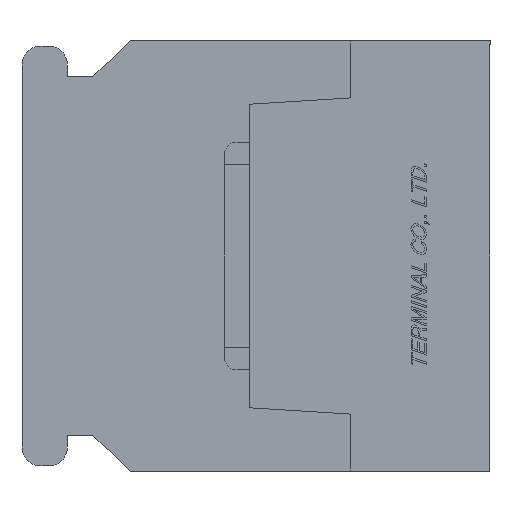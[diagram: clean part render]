
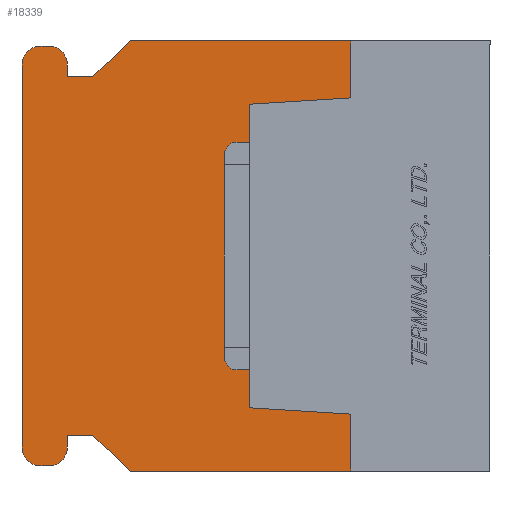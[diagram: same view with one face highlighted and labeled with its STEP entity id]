
A CAD part, left-side view. The second image highlights one B-rep face of the part: STEP entity #18339.
In plain terms, the highlighted planar face has unit normal (-1, 0, 0).
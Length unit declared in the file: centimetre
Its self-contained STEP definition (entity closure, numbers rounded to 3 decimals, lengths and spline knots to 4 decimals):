
#1378=VECTOR('',#20758,1.);
#1444=VECTOR('',#20850,1.);
#1771=VECTOR('',#21469,1.);
#1772=VECTOR('',#21470,1.);
#1773=VECTOR('',#21471,1.);
#1774=VECTOR('',#21472,1.);
#1775=VECTOR('',#21475,1.);
#1776=VECTOR('',#21478,1.);
#1777=VECTOR('',#21481,1.);
#1778=VECTOR('',#21484,1.);
#1779=VECTOR('',#21485,1.);
#1780=VECTOR('',#21486,1.);
#1781=VECTOR('',#21487,1.);
#1782=VECTOR('',#21488,1.);
#1783=VECTOR('',#21489,1.);
#1784=VECTOR('',#21490,1.);
#3328=LINE('',#25317,#1378);
#3394=LINE('',#25456,#1444);
#3721=LINE('',#26225,#1771);
#3722=LINE('',#26227,#1772);
#3723=LINE('',#26229,#1773);
#3724=LINE('',#26231,#1774);
#3725=LINE('',#26235,#1775);
#3726=LINE('',#26239,#1776);
#3727=LINE('',#26243,#1777);
#3728=LINE('',#26247,#1778);
#3729=LINE('',#26249,#1779);
#3730=LINE('',#26251,#1780);
#3731=LINE('',#26252,#1781);
#3732=LINE('',#26254,#1782);
#3733=LINE('',#26256,#1783);
#3734=LINE('',#26258,#1784);
#5031=PLANE('',#30453);
#6106=VERTEX_POINT('',#25316);
#6107=VERTEX_POINT('',#25318);
#6161=VERTEX_POINT('',#25455);
#6162=VERTEX_POINT('',#25457);
#6398=VERTEX_POINT('',#26226);
#6399=VERTEX_POINT('',#26228);
#6400=VERTEX_POINT('',#26230);
#6401=VERTEX_POINT('',#26232);
#6402=VERTEX_POINT('',#26234);
#6403=VERTEX_POINT('',#26236);
#6404=VERTEX_POINT('',#26238);
#6405=VERTEX_POINT('',#26240);
#6406=VERTEX_POINT('',#26242);
#6407=VERTEX_POINT('',#26244);
#6408=VERTEX_POINT('',#26246);
#6409=VERTEX_POINT('',#26248);
#6410=VERTEX_POINT('',#26250);
#6411=VERTEX_POINT('',#26253);
#6412=VERTEX_POINT('',#26255);
#6413=VERTEX_POINT('',#26257);
#7479=CIRCLE('',#30454,0.075);
#7480=CIRCLE('',#30455,0.075);
#7481=CIRCLE('',#30456,0.075);
#7482=CIRCLE('',#30457,0.075);
#8607=EDGE_CURVE('',#6106,#6107,#3328,.T.);
#8677=EDGE_CURVE('',#6161,#6162,#3394,.T.);
#9062=EDGE_CURVE('',#6398,#6162,#3721,.T.);
#9063=EDGE_CURVE('',#6399,#6161,#3722,.T.);
#9064=EDGE_CURVE('',#6400,#6399,#3723,.T.);
#9065=EDGE_CURVE('',#6401,#6400,#3724,.T.);
#9066=EDGE_CURVE('',#6402,#6401,#7479,.T.);
#9067=EDGE_CURVE('',#6403,#6402,#3725,.T.);
#9068=EDGE_CURVE('',#6404,#6403,#7480,.T.);
#9069=EDGE_CURVE('',#6405,#6404,#3726,.T.);
#9070=EDGE_CURVE('',#6406,#6405,#7481,.T.);
#9071=EDGE_CURVE('',#6407,#6406,#3727,.T.);
#9072=EDGE_CURVE('',#6408,#6407,#7482,.T.);
#9073=EDGE_CURVE('',#6409,#6408,#3728,.T.);
#9074=EDGE_CURVE('',#6410,#6409,#3729,.T.);
#9075=EDGE_CURVE('',#6107,#6410,#3730,.T.);
#9076=EDGE_CURVE('',#6106,#6411,#3731,.T.);
#9077=EDGE_CURVE('',#6411,#6412,#3732,.T.);
#9078=EDGE_CURVE('',#6412,#6413,#3733,.T.);
#9079=EDGE_CURVE('',#6413,#6398,#3734,.T.);
#13232=ORIENTED_EDGE('',*,*,#9062,.T.);
#13233=ORIENTED_EDGE('',*,*,#8677,.F.);
#13234=ORIENTED_EDGE('',*,*,#9063,.F.);
#13235=ORIENTED_EDGE('',*,*,#9064,.F.);
#13236=ORIENTED_EDGE('',*,*,#9065,.F.);
#13237=ORIENTED_EDGE('',*,*,#9066,.F.);
#13238=ORIENTED_EDGE('',*,*,#9067,.F.);
#13239=ORIENTED_EDGE('',*,*,#9068,.F.);
#13240=ORIENTED_EDGE('',*,*,#9069,.F.);
#13241=ORIENTED_EDGE('',*,*,#9070,.F.);
#13242=ORIENTED_EDGE('',*,*,#9071,.F.);
#13243=ORIENTED_EDGE('',*,*,#9072,.F.);
#13244=ORIENTED_EDGE('',*,*,#9073,.F.);
#13245=ORIENTED_EDGE('',*,*,#9074,.F.);
#13246=ORIENTED_EDGE('',*,*,#9075,.F.);
#13247=ORIENTED_EDGE('',*,*,#8607,.F.);
#13248=ORIENTED_EDGE('',*,*,#9076,.T.);
#13249=ORIENTED_EDGE('',*,*,#9077,.T.);
#13250=ORIENTED_EDGE('',*,*,#9078,.T.);
#13251=ORIENTED_EDGE('',*,*,#9079,.T.);
#16189=EDGE_LOOP('',(#13232,#13233,#13234,#13235,#13236,#13237,#13238,#13239,
#13240,#13241,#13242,#13243,#13244,#13245,#13246,#13247,#13248,#13249,#13250,
#13251));
#17303=FACE_BOUND('',#16189,.T.);
#18339=ADVANCED_FACE('',(#17303),#5031,.F.);
#20758=DIRECTION('',(0.,1.,0.));
#20850=DIRECTION('',(0.,-1.,0.));
#21468=DIRECTION('',(1.,0.,0.));
#21469=DIRECTION('',(0.,0.,1.));
#21470=DIRECTION('',(0.,-0.731,0.682));
#21471=DIRECTION('',(0.,-1.,0.));
#21472=DIRECTION('',(0.,0.,-1.));
#21473=DIRECTION('',(1.,0.,0.));
#21474=DIRECTION('',(0.,0.,-0.075));
#21475=DIRECTION('',(0.,-1.,0.));
#21476=DIRECTION('',(1.,0.,0.));
#21477=DIRECTION('',(0.,0.,-0.075));
#21478=DIRECTION('',(0.,0.,1.));
#21479=DIRECTION('',(1.,0.,0.));
#21480=DIRECTION('',(0.,0.,-0.075));
#21481=DIRECTION('',(0.,1.,0.));
#21482=DIRECTION('',(1.,0.,0.));
#21483=DIRECTION('',(0.,0.,-0.075));
#21484=DIRECTION('',(0.,0.,-1.));
#21485=DIRECTION('',(0.,1.,0.));
#21486=DIRECTION('',(0.,0.731,0.682));
#21487=DIRECTION('',(0.,0.,1.));
#21488=DIRECTION('',(0.,0.998,0.062));
#21489=DIRECTION('',(0.,0.,1.));
#21490=DIRECTION('',(0.,-0.998,0.062));
#25316=CARTESIAN_POINT('',(-1.,0.55,-0.85));
#25317=CARTESIAN_POINT('',(-1.,0.,-0.85));
#25318=CARTESIAN_POINT('',(-1.,1.42,-0.85));
#25455=CARTESIAN_POINT('',(-1.,1.42,0.85));
#25456=CARTESIAN_POINT('',(-1.,1.42,0.85));
#25457=CARTESIAN_POINT('',(-1.,0.55,0.85));
#26224=CARTESIAN_POINT('',(-1.,0.9383,0.));
#26225=CARTESIAN_POINT('',(-1.,0.55,0.3687));
#26226=CARTESIAN_POINT('',(-1.,0.55,0.625));
#26227=CARTESIAN_POINT('',(-1.,1.57,0.71));
#26228=CARTESIAN_POINT('',(-1.,1.57,0.71));
#26229=CARTESIAN_POINT('',(-1.,1.67,0.71));
#26230=CARTESIAN_POINT('',(-1.,1.67,0.71));
#26231=CARTESIAN_POINT('',(-1.,1.67,0.755));
#26232=CARTESIAN_POINT('',(-1.,1.67,0.755));
#26233=CARTESIAN_POINT('',(-1.,1.745,0.755));
#26234=CARTESIAN_POINT('',(-1.,1.745,0.83));
#26235=CARTESIAN_POINT('',(-1.,1.775,0.83));
#26236=CARTESIAN_POINT('',(-1.,1.775,0.83));
#26237=CARTESIAN_POINT('',(-1.,1.775,0.755));
#26238=CARTESIAN_POINT('',(-1.,1.85,0.755));
#26239=CARTESIAN_POINT('',(-1.,1.85,-0.755));
#26240=CARTESIAN_POINT('',(-1.,1.85,-0.755));
#26241=CARTESIAN_POINT('',(-1.,1.775,-0.755));
#26242=CARTESIAN_POINT('',(-1.,1.775,-0.83));
#26243=CARTESIAN_POINT('',(-1.,1.745,-0.83));
#26244=CARTESIAN_POINT('',(-1.,1.745,-0.83));
#26245=CARTESIAN_POINT('',(-1.,1.745,-0.755));
#26246=CARTESIAN_POINT('',(-1.,1.67,-0.755));
#26247=CARTESIAN_POINT('',(-1.,1.67,-0.71));
#26248=CARTESIAN_POINT('',(-1.,1.67,-0.71));
#26249=CARTESIAN_POINT('',(-1.,1.57,-0.71));
#26250=CARTESIAN_POINT('',(-1.,1.57,-0.71));
#26251=CARTESIAN_POINT('',(-1.,1.42,-0.85));
#26252=CARTESIAN_POINT('',(-1.,0.55,-0.3688));
#26253=CARTESIAN_POINT('',(-1.,0.55,-0.625));
#26254=CARTESIAN_POINT('',(-1.,0.8629,-0.6054));
#26255=CARTESIAN_POINT('',(-1.,0.95,-0.6));
#26256=CARTESIAN_POINT('',(-1.,0.95,0.));
#26257=CARTESIAN_POINT('',(-1.,0.95,0.6));
#26258=CARTESIAN_POINT('',(-1.,0.8629,0.6054));
#30453=AXIS2_PLACEMENT_3D('',#26224,#21468,$);
#30454=AXIS2_PLACEMENT_3D('',#26233,#21473,#21474);
#30455=AXIS2_PLACEMENT_3D('',#26237,#21476,#21477);
#30456=AXIS2_PLACEMENT_3D('',#26241,#21479,#21480);
#30457=AXIS2_PLACEMENT_3D('',#26245,#21482,#21483);
